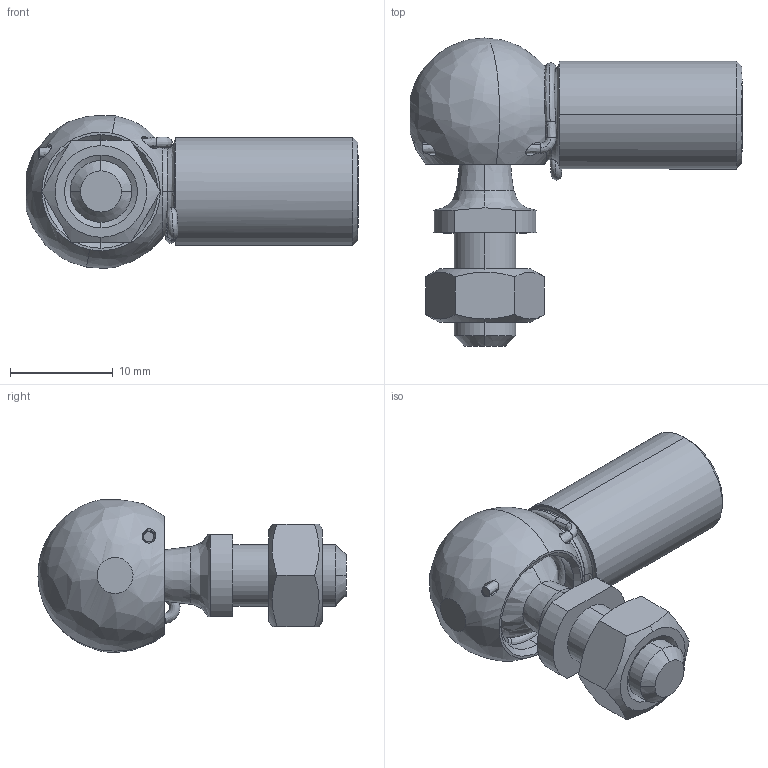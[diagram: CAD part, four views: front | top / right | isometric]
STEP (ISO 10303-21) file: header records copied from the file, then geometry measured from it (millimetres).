
FILE_DESCRIPTION (( 'STEP AP214' ), '1' );
FILE_NAME ('13.CS10M6.STEP', '2017-11-22T17:17:05', ( '' ), ( '' ), 'SwSTEP 2.0', 'SolidWorks 2016', '' );
FILE_SCHEMA (( 'AUTOMOTIVE_DESIGN' ));
Length unit declared in the file: millimetre
Products named in the file (1): 13.CS10M6
Bounding box: 32.29 x 29.97 x 14.87 mm (x, y, z)
Volume: 3559.4 mm3; surface area: 2821.7 mm2
Topology: 1 solids, 1 shells, 109 faces, 330 edges, 214 vertices
Faces by surface type: bspline 37, plane 26, cone 24, cylinder 22
Entity records: 10569 total; most frequent: CARTESIAN_POINT 7900, ORIENTED_EDGE 636, DIRECTION 464, EDGE_CURVE 318, VERTEX_POINT 214, AXIS2_PLACEMENT_3D 198, CIRCLE 125, EDGE_LOOP 122
